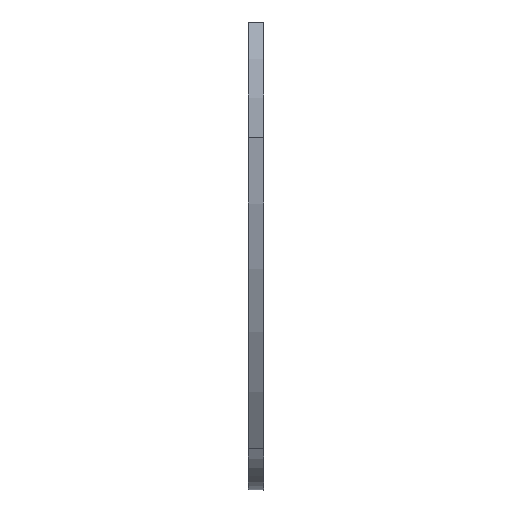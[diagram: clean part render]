
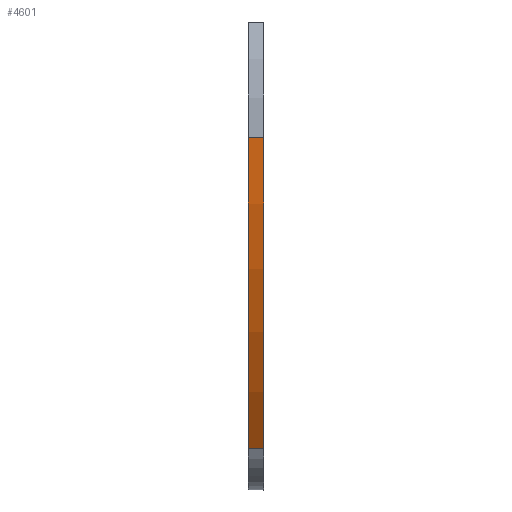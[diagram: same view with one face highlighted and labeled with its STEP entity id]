
A CAD part, front view. The second image highlights one B-rep face of the part: STEP entity #4601.
In plain terms, the highlighted cylindrical face has radius 116.121 mm (diameter 232.241 mm), a partial arc.
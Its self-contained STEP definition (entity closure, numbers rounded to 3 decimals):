
#45=CARTESIAN_POINT('',(3.,-12.684,-5.926));
#46=VERTEX_POINT('',#45);
#54=CARTESIAN_POINT('',(0.,-12.684,-5.926));
#55=VERTEX_POINT('',#54);
#56=CARTESIAN_POINT('',(3.,-12.684,-5.926));
#57=DIRECTION('',(-1.,0.,0.));
#58=VECTOR('',#57,3.);
#59=LINE('',#56,#58);
#60=EDGE_CURVE('',#46,#55,#59,.T.);
#4550=CARTESIAN_POINT('',(3.,-34.169,55.25));
#4551=VERTEX_POINT('',#4550);
#4559=CARTESIAN_POINT('',(0.,-34.169,55.25));
#4560=VERTEX_POINT('',#4559);
#4561=CARTESIAN_POINT('',(3.,-34.169,55.25));
#4562=DIRECTION('',(-1.,0.,0.));
#4563=VECTOR('',#4562,3.);
#4564=LINE('',#4561,#4563);
#4565=EDGE_CURVE('',#4551,#4560,#4564,.T.);
#4578=CARTESIAN_POINT('',(3.,81.777,61.61));
#4579=DIRECTION('',(0.,-0.998,-0.055));
#4580=DIRECTION('',(-1.,0.,0.));
#4581=AXIS2_PLACEMENT_3D('',#4578,#4580,#4579);
#4582=CYLINDRICAL_SURFACE('',#4581,116.121);
#4583=CARTESIAN_POINT('',(3.,81.777,61.61));
#4584=DIRECTION('',(0.,-0.998,-0.055));
#4585=DIRECTION('',(1.,0.,0.));
#4586=AXIS2_PLACEMENT_3D('',#4583,#4585,#4584);
#4587=CIRCLE('',#4586,116.121);
#4588=EDGE_CURVE('',#4551,#46,#4587,.T.);
#4589=ORIENTED_EDGE('E438',*,*,#4588,.T.);
#4590=ORIENTED_EDGE('E438',*,*,#60,.T.);
#4591=CARTESIAN_POINT('',(0.,81.777,61.61));
#4592=DIRECTION('',(0.,-0.998,-0.055));
#4593=DIRECTION('',(1.,-0.,0.));
#4594=AXIS2_PLACEMENT_3D('',#4591,#4593,#4592);
#4595=CIRCLE('',#4594,116.121);
#4596=EDGE_CURVE('',#4560,#55,#4595,.T.);
#4597=ORIENTED_EDGE('E444',*,*,#4596,.F.);
#4598=ORIENTED_EDGE('E444',*,*,#4565,.F.);
#4599=EDGE_LOOP('',(#4589,#4590,#4597,#4598));
#4600=FACE_OUTER_BOUND('',#4599,.F.);
#4601=ADVANCED_FACE('F244',(#4600),#4582,.T.);
